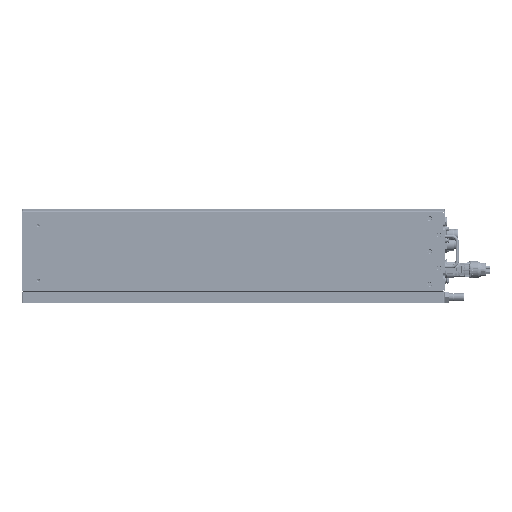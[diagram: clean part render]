
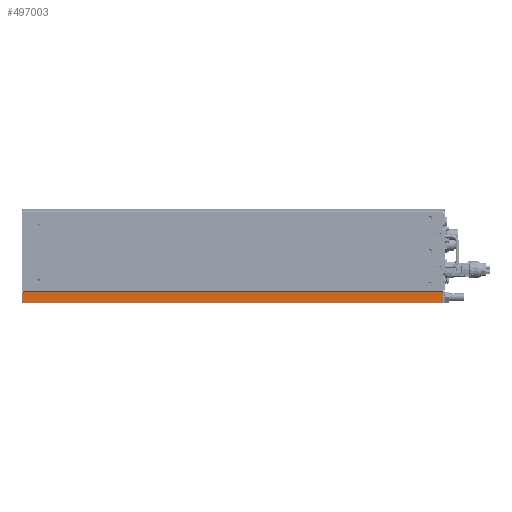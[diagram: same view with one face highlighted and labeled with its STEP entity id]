
A CAD part, left-side view. The second image highlights one B-rep face of the part: STEP entity #497003.
In plain terms, the highlighted planar face has unit normal (-1, 0, 0).
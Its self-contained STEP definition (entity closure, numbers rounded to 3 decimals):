
#22242 = VERTEX_POINT ( 'NONE', #440786 ) ;
#24140 = VECTOR ( 'NONE', #357645, 1000. ) ;
#26603 = VERTEX_POINT ( 'NONE', #530944 ) ;
#38778 = DIRECTION ( 'NONE',  ( 0., 0., -1. ) ) ;
#43367 = VECTOR ( 'NONE', #203083, 1000. ) ;
#49779 = LINE ( 'NONE', #355272, #24140 ) ;
#129278 = CARTESIAN_POINT ( 'NONE',  ( -235., 385., 20. ) ) ;
#155543 = CARTESIAN_POINT ( 'NONE',  ( -235., 383., 0. ) ) ;
#167761 = CARTESIAN_POINT ( 'NONE',  ( -235., -383., 20. ) ) ;
#183006 = EDGE_CURVE ( 'NONE', #237477, #22242, #523392, .T. ) ;
#203083 = DIRECTION ( 'NONE',  ( 0., -1., 0. ) ) ;
#237477 = VERTEX_POINT ( 'NONE', #513195 ) ;
#238288 = PLANE ( 'NONE',  #614152 ) ;
#249082 = LINE ( 'NONE', #370751, #431087 ) ;
#256828 = EDGE_CURVE ( 'NONE', #26603, #380058, #249082, .T. ) ;
#261121 = CARTESIAN_POINT ( 'NONE',  ( -235., 385., 0. ) ) ;
#275768 = ORIENTED_EDGE ( 'NONE', *, *, #649932, .T. ) ;
#328167 = EDGE_CURVE ( 'NONE', #26603, #22242, #49779, .T. ) ;
#355272 = CARTESIAN_POINT ( 'NONE',  ( -235., 385., 20. ) ) ;
#357645 = DIRECTION ( 'NONE',  ( 0., -1., 0. ) ) ;
#370751 = CARTESIAN_POINT ( 'NONE',  ( -235., 383., 20. ) ) ;
#380058 = VERTEX_POINT ( 'NONE', #155543 ) ;
#402429 = FACE_OUTER_BOUND ( 'NONE', #434705, .T. ) ;
#403029 = DIRECTION ( 'NONE',  ( 0., 1., 0. ) ) ;
#431087 = VECTOR ( 'NONE', #38778, 1000. ) ;
#434705 = EDGE_LOOP ( 'NONE', ( #275768, #566329, #699085, #557747 ) ) ;
#440786 = CARTESIAN_POINT ( 'NONE',  ( -235., -383., 20. ) ) ;
#497003 = ADVANCED_FACE ( 'NONE', ( #402429 ), #238288, .F. ) ;
#509143 = DIRECTION ( 'NONE',  ( 0., 0., 1. ) ) ;
#513195 = CARTESIAN_POINT ( 'NONE',  ( -235., -383., 0. ) ) ;
#518261 = VECTOR ( 'NONE', #509143, 1000. ) ;
#523392 = LINE ( 'NONE', #167761, #518261 ) ;
#530944 = CARTESIAN_POINT ( 'NONE',  ( -235., 383., 20. ) ) ;
#557747 = ORIENTED_EDGE ( 'NONE', *, *, #256828, .T. ) ;
#566329 = ORIENTED_EDGE ( 'NONE', *, *, #183006, .T. ) ;
#614152 = AXIS2_PLACEMENT_3D ( 'NONE', #129278, #625718, #403029 ) ;
#625718 = DIRECTION ( 'NONE',  ( 1., 0., 0. ) ) ;
#649932 = EDGE_CURVE ( 'NONE', #380058, #237477, #675805, .T. ) ;
#675805 = LINE ( 'NONE', #261121, #43367 ) ;
#699085 = ORIENTED_EDGE ( 'NONE', *, *, #328167, .F. ) ;
